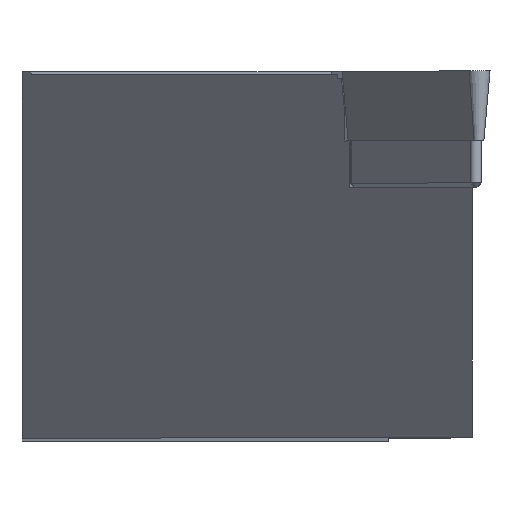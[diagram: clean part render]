
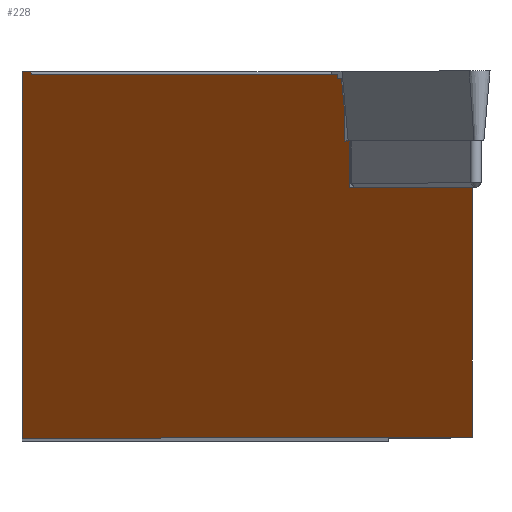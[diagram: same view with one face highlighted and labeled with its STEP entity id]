
A CAD part, top view. The second image highlights one B-rep face of the part: STEP entity #228.
In plain terms, the highlighted planar face has unit normal (-0.788, 0, 0.616).
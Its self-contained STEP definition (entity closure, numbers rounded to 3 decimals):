
#172=FACE_OUTER_BOUND('',#357,.T.);
#228=ADVANCED_FACE('',(#172),#274,.T.);
#274=PLANE('',#1221);
#357=EDGE_LOOP('',(#623,#624,#625,#626,#627,#628,#629,#630,#631,#632,#633,
#634,#635));
#623=ORIENTED_EDGE('',*,*,#905,.F.);
#624=ORIENTED_EDGE('',*,*,#877,.T.);
#625=ORIENTED_EDGE('',*,*,#879,.T.);
#626=ORIENTED_EDGE('',*,*,#865,.F.);
#627=ORIENTED_EDGE('',*,*,#862,.F.);
#628=ORIENTED_EDGE('',*,*,#857,.F.);
#629=ORIENTED_EDGE('',*,*,#904,.F.);
#630=ORIENTED_EDGE('',*,*,#900,.F.);
#631=ORIENTED_EDGE('',*,*,#894,.T.);
#632=ORIENTED_EDGE('',*,*,#887,.F.);
#633=ORIENTED_EDGE('',*,*,#885,.T.);
#634=ORIENTED_EDGE('',*,*,#854,.T.);
#635=ORIENTED_EDGE('',*,*,#906,.T.);
#734=VERTEX_POINT('',#1687);
#736=VERTEX_POINT('',#1691);
#739=VERTEX_POINT('',#1698);
#740=VERTEX_POINT('',#1700);
#744=VERTEX_POINT('',#1710);
#746=VERTEX_POINT('',#1716);
#754=VERTEX_POINT('',#1737);
#755=VERTEX_POINT('',#1739);
#757=VERTEX_POINT('',#1750);
#759=VERTEX_POINT('',#1757);
#763=VERTEX_POINT('',#1768);
#768=VERTEX_POINT('',#1782);
#769=VERTEX_POINT('',#1792);
#854=EDGE_CURVE('',#734,#736,#975,.T.);
#857=EDGE_CURVE('',#739,#740,#977,.T.);
#862=EDGE_CURVE('',#740,#744,#982,.T.);
#865=EDGE_CURVE('',#744,#746,#985,.T.);
#877=EDGE_CURVE('',#755,#754,#996,.T.);
#879=EDGE_CURVE('',#754,#746,#998,.T.);
#885=EDGE_CURVE('',#757,#734,#1004,.T.);
#887=EDGE_CURVE('',#757,#759,#1006,.T.);
#894=EDGE_CURVE('',#763,#759,#1013,.T.);
#900=EDGE_CURVE('',#763,#768,#1017,.T.);
#904=EDGE_CURVE('',#768,#739,#1021,.T.);
#905=EDGE_CURVE('',#755,#769,#1022,.T.);
#906=EDGE_CURVE('',#736,#769,#1023,.T.);
#975=LINE('',#1692,#1091);
#977=LINE('',#1699,#1093);
#982=LINE('',#1709,#1098);
#985=LINE('',#1715,#1101);
#996=LINE('',#1738,#1112);
#998=LINE('',#1742,#1114);
#1004=LINE('',#1752,#1120);
#1006=LINE('',#1756,#1122);
#1013=LINE('',#1770,#1129);
#1017=LINE('',#1781,#1133);
#1021=LINE('',#1789,#1137);
#1022=LINE('',#1791,#1138);
#1023=LINE('',#1793,#1139);
#1091=VECTOR('',#1402,1.);
#1093=VECTOR('',#1408,1.);
#1098=VECTOR('',#1415,1.);
#1101=VECTOR('',#1420,1.);
#1112=VECTOR('',#1437,1.);
#1114=VECTOR('',#1441,1.);
#1120=VECTOR('',#1451,1.);
#1122=VECTOR('',#1455,1.);
#1129=VECTOR('',#1466,1.);
#1133=VECTOR('',#1476,1.);
#1137=VECTOR('',#1486,1.);
#1138=VECTOR('',#1489,1.);
#1139=VECTOR('',#1490,1.);
#1221=AXIS2_PLACEMENT_3D('',#1794,#1491,#1492);
#1402=DIRECTION('',(-0.093,0.989,-0.119));
#1408=DIRECTION('',(-0.616,0.,-0.788));
#1415=DIRECTION('',(0.,1.,0.));
#1420=DIRECTION('',(0.616,0.,0.788));
#1437=DIRECTION('',(-0.616,0.,-0.788));
#1441=DIRECTION('',(0.,1.,0.));
#1451=DIRECTION('',(0.,1.,0.));
#1455=DIRECTION('',(0.616,0.,0.788));
#1466=DIRECTION('',(0.,1.,0.));
#1476=DIRECTION('',(0.616,0.,0.788));
#1486=DIRECTION('',(0.,-1.,0.));
#1489=DIRECTION('',(0.,-1.,0.));
#1490=DIRECTION('',(-0.616,0.,-0.788));
#1491=DIRECTION('',(-0.788,0.,0.616));
#1492=DIRECTION('',(0.616,0.,0.788));
#1687=CARTESIAN_POINT('',(-9.991,-2.7,-13.652));
#1691=CARTESIAN_POINT('',(-10.198,-0.5,-13.917));
#1692=CARTESIAN_POINT('',(-10.396,1.613,-14.171));
#1698=CARTESIAN_POINT('',(-1.264,-25.,-2.482));
#1699=CARTESIAN_POINT('',(-37.121,-25.,-48.377));
#1700=CARTESIAN_POINT('',(-32.,-25.,-41.822));
#1709=CARTESIAN_POINT('',(-32.,0.,-41.822));
#1710=CARTESIAN_POINT('',(-32.,0.,-41.822));
#1715=CARTESIAN_POINT('',(-84.482,0.,-108.996));
#1716=CARTESIAN_POINT('',(-31.357,0.,-41.));
#1737=CARTESIAN_POINT('',(-31.357,-0.2,-41.));
#1738=CARTESIAN_POINT('',(-12.583,-0.2,-16.97));
#1739=CARTESIAN_POINT('',(-10.441,-0.2,-14.228));
#1742=CARTESIAN_POINT('',(-31.357,-0.2,-41.));
#1750=CARTESIAN_POINT('',(-9.991,-4.76,-13.652));
#1752=CARTESIAN_POINT('',(-9.991,-4.76,-13.652));
#1756=CARTESIAN_POINT('',(-17.287,-4.76,-22.99));
#1757=CARTESIAN_POINT('',(-9.642,-4.76,-13.206));
#1768=CARTESIAN_POINT('',(-9.642,-7.94,-13.206));
#1770=CARTESIAN_POINT('',(-9.642,-7.94,-13.206));
#1781=CARTESIAN_POINT('',(-16.652,-7.94,-22.178));
#1782=CARTESIAN_POINT('',(-1.264,-7.94,-2.482));
#1789=CARTESIAN_POINT('',(-1.264,2.98,-2.482));
#1791=CARTESIAN_POINT('',(-10.441,2.98,-14.228));
#1792=CARTESIAN_POINT('',(-10.441,-0.5,-14.228));
#1793=CARTESIAN_POINT('',(-37.121,-0.5,-48.377));
#1794=CARTESIAN_POINT('',(-37.121,2.98,-48.377));
